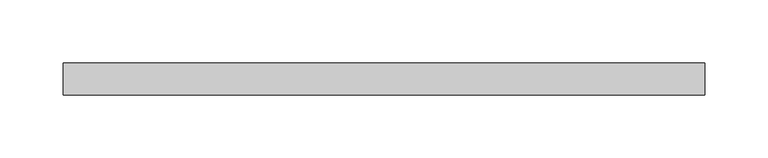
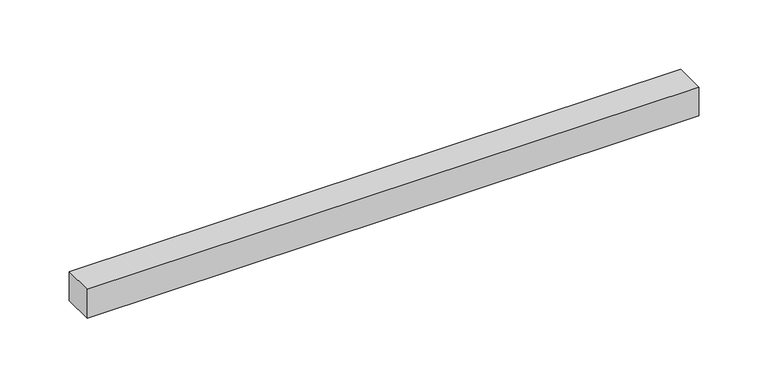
"""IFC4 building model written with IfcOpenShell, lengths in millimetres: proxy geometry, FOUNDATION^WORKSURFACES_1x1 BLOCKING-20."""

from ifc_helpers import new_model, si_unit, origin, origin_with_axes, place, context, project, spatial, polyline, outline, extrude, source, transform, mapped, element, save


def generic_models_e0dffeda(model_context):
    return source(origin(), model_context, "Body", "SweptSolid", [
        extrude(outline(polyline([(0.0, 0.0), (0.0, 25.4), (508.0, 25.4), (508.0, 0.0), (0.0, 0.0)])), origin_with_axes(), (0.0, 0.0, 1.0), 25.4),
    ])


if __name__ == "__main__":
    model = new_model("IFC4")
    model_context = context("Model", 3, world=origin())
    ifc_project = project(units=[si_unit("LENGTHUNIT", "METRE", prefix="MILLI")], contexts=[model_context])
    site = spatial("IfcSite", under=ifc_project)
    building = spatial("IfcBuilding", under=site)
    placement = place(None, origin())
    generic_models_shape = generic_models_e0dffeda(model_context)
    element("IfcBuildingElementProxy", 1, Name="FOUNDATION^WORKSURFACES_1x1 BLOCKING-20", ObjectType="FOUNDATION^WORKSURFACES_1x1 BLOCKING-20", at=placement, inside=building, context=model_context, shape_type="MappedRepresentation", body=[
        mapped(generic_models_shape, transform((0.0, 0.0, 0.0), x_axis=(1.0, 0.0, 0.0), y_axis=(0.0, 1.0, 0.0), z_axis=(0.0, 0.0, 1.0))),
    ])
    save(model, "model.ifc")
